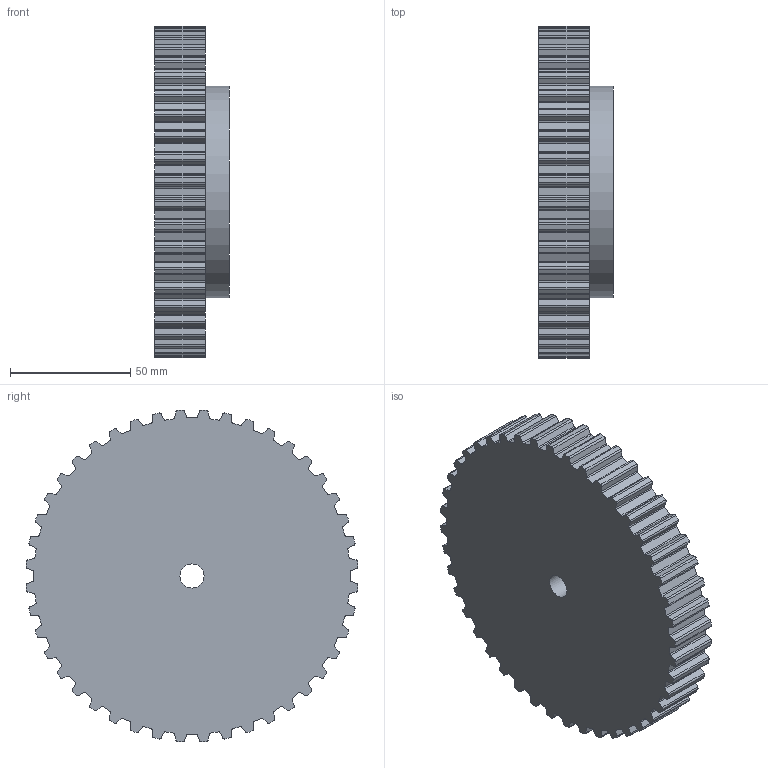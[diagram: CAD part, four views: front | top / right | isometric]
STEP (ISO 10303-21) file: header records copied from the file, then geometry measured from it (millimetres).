
FILE_DESCRIPTION( ( 'STEP AP203' ), '1' );
FILE_NAME( 'C:/Users/Stangenbergd/Documents/CAD_Step/1/16424400.stp', '2020-09-13T08:36:40', ( 'License CC BY-ND 4.0' ), ( 'CADENAS' ), ' ', 'PARTsolutions', ' ' );
FILE_SCHEMA( ( 'CONFIG_CONTROL_DESIGN' ) );
Length unit declared in the file: millimetre
Products named in the file (1): _16424400
Bounding box: 31 x 137.98 x 137.98 mm (x, y, z)
Volume: 356563.4 mm3; surface area: 44890.9 mm2
Topology: 1 solids, 1 shells, 357 faces, 1062 edges, 708 vertices
Faces by surface type: cylinder 222, plane 135
Full cylindrical faces by diameter (mm): 10 x1, 88 x1
Entity records: 12198 total; most frequent: DIRECTION 2220, CARTESIAN_POINT 2126, ORIENTED_EDGE 2120, EDGE_CURVE 1060, AXIS2_PLACEMENT_3D 802, VERTEX_POINT 708, LINE 616, VECTOR 616
